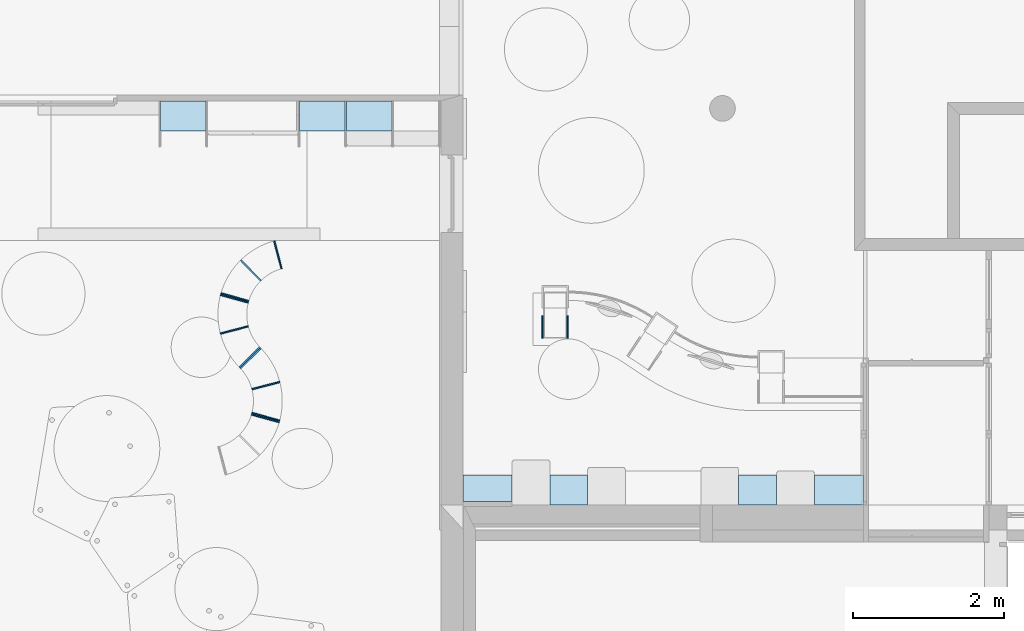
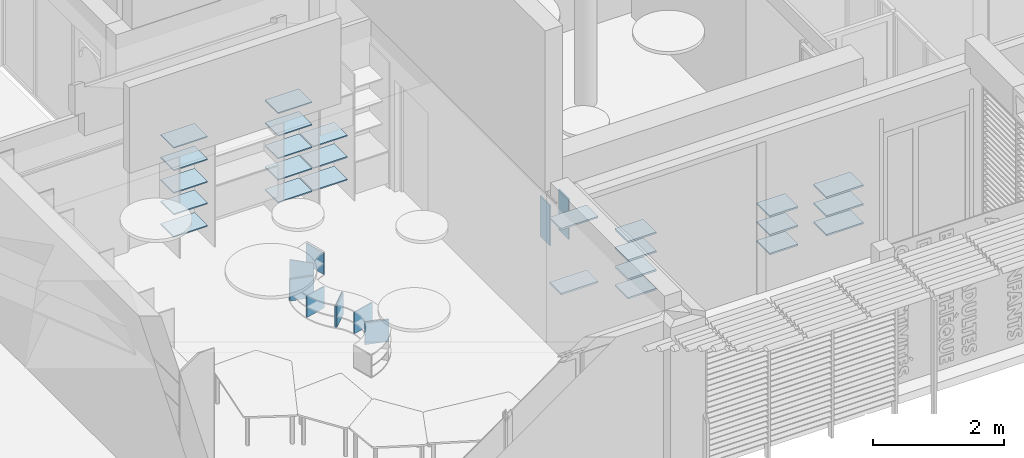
# One storey, part 16 of 64: 37 slabs.
"""IFC2X3 building model written with IfcOpenShell, lengths in metres."""

from ifc_helpers import new_model, entity, si_unit, converted_unit, derived_unit, direction, frame, frame_2d, origin, origin_2d_with_axis, place, context, subcontext, project, spatial, polyline, circle_curve, parameter, trimmed, segment, composite_curve, rectangle, outline, extrude, material, layer, layer_set, layer_usage, type_object, element, save


model = new_model("IFC2X3")

# Units and contexts
model_context = context("Model", 3, precision=1e-05, world=origin(), true_north=direction((6.123031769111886e-17, 1.0)))
body_context = subcontext(model_context, "Body", "Model", "MODEL_VIEW")
ifc_project = project(units=[si_unit("LENGTHUNIT", "METRE"), si_unit("AREAUNIT", "SQUARE_METRE"), si_unit("VOLUMEUNIT", "CUBIC_METRE"), converted_unit("PLANEANGLEUNIT", "DEGREE", entity("IfcRatioMeasure", 0.017453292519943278), si_unit("PLANEANGLEUNIT", "RADIAN"), dimensions=[0, 0, 0, 0, 0, 0, 0]), si_unit("MASSUNIT", "GRAM", prefix="KILO"), derived_unit("MASSDENSITYUNIT", [(si_unit("MASSUNIT", "GRAM", prefix="KILO"), 1), (si_unit("LENGTHUNIT", "METRE"), -3)]), derived_unit("MOMENTOFINERTIAUNIT", [(si_unit("LENGTHUNIT", "METRE"), 4)]), si_unit("TIMEUNIT", "SECOND"), si_unit("FREQUENCYUNIT", "HERTZ"), si_unit("THERMODYNAMICTEMPERATUREUNIT", "DEGREE_CELSIUS"), derived_unit("THERMALTRANSMITTANCEUNIT", [(si_unit("MASSUNIT", "GRAM", prefix="KILO"), 1), (si_unit("THERMODYNAMICTEMPERATUREUNIT", "KELVIN"), -1), (si_unit("TIMEUNIT", "SECOND"), -3)]), derived_unit("THERMALCONDUCTANCEUNIT", [(si_unit("MASSUNIT", "GRAM", prefix="KILO"), 1), (si_unit("LENGTHUNIT", "METRE"), 1), (si_unit("THERMODYNAMICTEMPERATUREUNIT", "KELVIN"), -1), (si_unit("TIMEUNIT", "SECOND"), -3)]), derived_unit("VOLUMETRICFLOWRATEUNIT", [(si_unit("LENGTHUNIT", "METRE"), 3), (si_unit("TIMEUNIT", "SECOND"), -1)]), derived_unit("MASSFLOWRATEUNIT", [(si_unit("MASSUNIT", "GRAM", prefix="KILO"), 1), (si_unit("TIMEUNIT", "SECOND"), -1)]), derived_unit("ROTATIONALFREQUENCYUNIT", [(si_unit("TIMEUNIT", "SECOND"), -1)]), si_unit("ELECTRICCURRENTUNIT", "AMPERE"), si_unit("ELECTRICVOLTAGEUNIT", "VOLT"), si_unit("POWERUNIT", "WATT"), si_unit("FORCEUNIT", "NEWTON", prefix="KILO"), si_unit("ILLUMINANCEUNIT", "LUX"), si_unit("LUMINOUSFLUXUNIT", "LUMEN"), si_unit("LUMINOUSINTENSITYUNIT", "CANDELA"), derived_unit("USERDEFINED", [(si_unit("MASSUNIT", "GRAM", prefix="KILO"), -1), (si_unit("LENGTHUNIT", "METRE"), -2), (si_unit("TIMEUNIT", "SECOND"), 3), (si_unit("LUMINOUSFLUXUNIT", "LUMEN"), 1)]), derived_unit("USERDEFINED", [(si_unit("MASSUNIT", "GRAM", prefix="KILO"), 1), (si_unit("LENGTHUNIT", "METRE"), 3), (si_unit("TIMEUNIT", "SECOND"), -3), (si_unit("ELECTRICCURRENTUNIT", "AMPERE"), -2)]), derived_unit("USERDEFINED", [(si_unit("LENGTHUNIT", "METRE"), 2), (si_unit("TIMEUNIT", "SECOND"), -2)]), derived_unit("SOUNDPOWERUNIT", [(si_unit("MASSUNIT", "GRAM", prefix="KILO"), 1), (si_unit("LENGTHUNIT", "METRE"), 2), (si_unit("TIMEUNIT", "SECOND"), -3)]), derived_unit("SOUNDPRESSUREUNIT", [(si_unit("MASSUNIT", "GRAM", prefix="KILO"), 1), (si_unit("LENGTHUNIT", "METRE"), -1), (si_unit("TIMEUNIT", "SECOND"), -2)]), derived_unit("LINEARVELOCITYUNIT", [(si_unit("LENGTHUNIT", "METRE"), 1), (si_unit("TIMEUNIT", "SECOND"), -1)]), si_unit("PRESSUREUNIT", "PASCAL"), derived_unit("USERDEFINED", [(si_unit("LENGTHUNIT", "METRE"), -2), (si_unit("MASSUNIT", "GRAM", prefix="KILO"), 1), (si_unit("TIMEUNIT", "SECOND"), -2)]), derived_unit("LINEARFORCEUNIT", [(si_unit("MASSUNIT", "GRAM", prefix="KILO"), 1), (si_unit("LENGTHUNIT", "METRE"), 1), (si_unit("TIMEUNIT", "SECOND"), -2), (si_unit("LENGTHUNIT", "METRE"), -1)]), derived_unit("PLANARFORCEUNIT", [(si_unit("MASSUNIT", "GRAM", prefix="KILO"), 1), (si_unit("LENGTHUNIT", "METRE"), 1), (si_unit("TIMEUNIT", "SECOND"), -2), (si_unit("LENGTHUNIT", "METRE"), -2)]), derived_unit("SPECIFICHEATCAPACITYUNIT", [(si_unit("LENGTHUNIT", "METRE"), 2), (si_unit("TIMEUNIT", "SECOND"), -2), (si_unit("THERMODYNAMICTEMPERATUREUNIT", "KELVIN"), -1)]), derived_unit("VAPORPERMEABILITYUNIT", [(si_unit("TIMEUNIT", "SECOND"), 1), (si_unit("LENGTHUNIT", "METRE"), -1)]), derived_unit("DYNAMICVISCOSITYUNIT", [(si_unit("MASSUNIT", "GRAM", prefix="KILO"), 1), (si_unit("LENGTHUNIT", "METRE"), -1), (si_unit("TIMEUNIT", "SECOND"), -1)]), derived_unit("THERMALEXPANSIONCOEFFICIENTUNIT", [(si_unit("THERMODYNAMICTEMPERATUREUNIT", "KELVIN"), -1)])], contexts=[model_context])

# Site, building, storey
site_placement = place(None, origin())
site = spatial("IfcSite", under=ifc_project, at=site_placement, Name="Default", CompositionType="ELEMENT")
building_placement = place(site_placement, origin())
building = spatial("IfcBuilding", under=site, at=building_placement, CompositionType="ELEMENT")
storey_placement = place(building_placement, origin())
storey = spatial("IfcBuildingStorey", under=building, at=storey_placement, Name="REZ-DE-CHAUSSÉE", CompositionType="ELEMENT", Elevation=0.0)

# Slabs
ifc_material = material(Name="Bois - Pin granuleux horizontal")
ifc_layer_1 = layer(ifc_material, 0.02)
ifc_layer_set_1 = layer_set([ifc_layer_1], Name="Sol:Dalle-007:1415")
ifc_layer_usage_1 = layer_usage(ifc_layer_set_1, "AXIS3", "POSITIVE", 0.0)
slab_type_1 = type_object("IfcSlabType", Name="Sol:Dalle-007:1415", PredefinedType="FLOOR", material=ifc_layer_set_1)
slab_1_placement = place(storey_placement, origin())
element("IfcSlab", 1, at=slab_1_placement, inside=storey, type_object=slab_type_1, material=ifc_layer_usage_1, Name="Sol:Dalle-007:1415", ObjectType="Sol:Dalle-007:1415", PredefinedType="FLOOR", context=body_context, shape_type="SweptSolid", body=[
    extrude(rectangle(XDim=0.4, YDim=0.6000000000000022, at=origin_2d_with_axis()), frame((113.680752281, 13.2272094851, 0.7), z_axis=(0.0, 0.0, -1.0), x_axis=(0.0, 1.0, 0.0)), (0.0, 0.0, 1.0), 0.020000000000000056),
])
slab_2_placement = place(storey_placement, origin())
element("IfcSlab", 2, at=slab_2_placement, inside=storey, type_object=slab_type_1, material=ifc_layer_usage_1, Name="Sol:Dalle-007:1415", ObjectType="Sol:Dalle-007:1415", PredefinedType="FLOOR", context=body_context, shape_type="SweptSolid", body=[
    extrude(rectangle(XDim=0.4, YDim=0.6000000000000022, at=origin_2d_with_axis()), frame((113.680752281, 13.2272094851, 0.27999999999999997), z_axis=(0.0, 0.0, -1.0), x_axis=(0.0, 1.0, 0.0)), (0.0, 0.0, 1.0), 0.019999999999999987),
])
slab_3_placement = place(storey_placement, origin())
element("IfcSlab", 3, at=slab_3_placement, inside=storey, type_object=slab_type_1, material=ifc_layer_usage_1, Name="Sol:Dalle-007:1415", ObjectType="Sol:Dalle-007:1415", PredefinedType="FLOOR", context=body_context, shape_type="SweptSolid", body=[
    extrude(rectangle(XDim=0.4, YDim=0.6000000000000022, at=origin_2d_with_axis()), frame((115.52075228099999, 13.2272094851, 1.94), z_axis=(0.0, 0.0, -1.0), x_axis=(0.0, 1.0, 0.0)), (0.0, 0.0, 1.0), 0.020000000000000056),
])
slab_4_placement = place(storey_placement, origin())
element("IfcSlab", 4, at=slab_4_placement, inside=storey, type_object=slab_type_1, material=ifc_layer_usage_1, Name="Sol:Dalle-007:1415", ObjectType="Sol:Dalle-007:1415", PredefinedType="FLOOR", context=body_context, shape_type="SweptSolid", body=[
    extrude(rectangle(XDim=0.4, YDim=0.6000000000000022, at=origin_2d_with_axis()), frame((115.52075228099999, 13.2272094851, 0.27999999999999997), z_axis=(0.0, 0.0, -1.0), x_axis=(0.0, 1.0, 0.0)), (0.0, 0.0, 1.0), 0.019999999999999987),
])
slab_5_placement = place(storey_placement, origin())
element("IfcSlab", 5, at=slab_5_placement, inside=storey, type_object=slab_type_1, material=ifc_layer_usage_1, Name="Sol:Dalle-007:1415", ObjectType="Sol:Dalle-007:1415", PredefinedType="FLOOR", context=body_context, shape_type="SweptSolid", body=[
    extrude(rectangle(XDim=0.4, YDim=0.6000000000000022, at=origin_2d_with_axis()), frame((113.680752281, 13.2272094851, 1.1), z_axis=(0.0, 0.0, -1.0), x_axis=(0.0, 1.0, 0.0)), (0.0, 0.0, 1.0), 0.020000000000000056),
])
slab_6_placement = place(storey_placement, origin())
element("IfcSlab", 6, at=slab_6_placement, inside=storey, type_object=slab_type_1, material=ifc_layer_usage_1, Name="Sol:Dalle-007:1415", ObjectType="Sol:Dalle-007:1415", PredefinedType="FLOOR", context=body_context, shape_type="SweptSolid", body=[
    extrude(rectangle(XDim=0.4, YDim=0.6000000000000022, at=origin_2d_with_axis()), frame((113.680752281, 13.2272094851, 1.5199999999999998), z_axis=(0.0, 0.0, -1.0), x_axis=(0.0, 1.0, 0.0)), (0.0, 0.0, 1.0), 0.020000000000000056),
])
slab_7_placement = place(storey_placement, origin())
element("IfcSlab", 7, at=slab_7_placement, inside=storey, type_object=slab_type_1, material=ifc_layer_usage_1, Name="Sol:Dalle-007:1415", ObjectType="Sol:Dalle-007:1415", PredefinedType="FLOOR", context=body_context, shape_type="SweptSolid", body=[
    extrude(rectangle(XDim=0.4, YDim=0.6000000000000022, at=origin_2d_with_axis()), frame((113.680752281, 13.2272094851, 1.94), z_axis=(0.0, 0.0, -1.0), x_axis=(0.0, 1.0, 0.0)), (0.0, 0.0, 1.0), 0.020000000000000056),
])
slab_8_placement = place(storey_placement, origin())
element("IfcSlab", 8, at=slab_8_placement, inside=storey, type_object=slab_type_1, material=ifc_layer_usage_1, Name="Sol:Dalle-007:1415", ObjectType="Sol:Dalle-007:1415", PredefinedType="FLOOR", context=body_context, shape_type="SweptSolid", body=[
    extrude(rectangle(XDim=0.4, YDim=0.6000000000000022, at=origin_2d_with_axis()), frame((115.52075228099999, 13.2272094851, 0.7), z_axis=(0.0, 0.0, -1.0), x_axis=(0.0, 1.0, 0.0)), (0.0, 0.0, 1.0), 0.020000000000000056),
])
slab_9_placement = place(storey_placement, origin())
element("IfcSlab", 9, at=slab_9_placement, inside=storey, type_object=slab_type_1, material=ifc_layer_usage_1, Name="Sol:Dalle-007:1415", ObjectType="Sol:Dalle-007:1415", PredefinedType="FLOOR", context=body_context, shape_type="SweptSolid", body=[
    extrude(rectangle(XDim=0.4, YDim=0.6000000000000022, at=origin_2d_with_axis()), frame((115.52075228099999, 13.2272094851, 1.1), z_axis=(0.0, 0.0, -1.0), x_axis=(0.0, 1.0, 0.0)), (0.0, 0.0, 1.0), 0.020000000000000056),
])
slab_10_placement = place(storey_placement, origin())
element("IfcSlab", 10, at=slab_10_placement, inside=storey, type_object=slab_type_1, material=ifc_layer_usage_1, Name="Sol:Dalle-007:1415", ObjectType="Sol:Dalle-007:1415", PredefinedType="FLOOR", context=body_context, shape_type="SweptSolid", body=[
    extrude(rectangle(XDim=0.4, YDim=0.6000000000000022, at=origin_2d_with_axis()), frame((115.52075228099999, 13.2272094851, 1.5199999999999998), z_axis=(0.0, 0.0, -1.0), x_axis=(0.0, 1.0, 0.0)), (0.0, 0.0, 1.0), 0.020000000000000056),
])
slab_11_placement = place(storey_placement, origin())
element("IfcSlab", 11, at=slab_11_placement, inside=storey, type_object=slab_type_1, material=ifc_layer_usage_1, Name="Sol:Dalle-007:1415", ObjectType="Sol:Dalle-007:1415", PredefinedType="FLOOR", context=body_context, shape_type="SweptSolid", body=[
    extrude(rectangle(XDim=0.4, YDim=0.6000000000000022, at=origin_2d_with_axis()), frame((116.14075227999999, 13.2272094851, 0.27999999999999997), z_axis=(0.0, 0.0, -1.0), x_axis=(0.0, 1.0, 0.0)), (0.0, 0.0, 1.0), 0.019999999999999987),
])
slab_12_placement = place(storey_placement, origin())
element("IfcSlab", 12, at=slab_12_placement, inside=storey, type_object=slab_type_1, material=ifc_layer_usage_1, Name="Sol:Dalle-007:1415", ObjectType="Sol:Dalle-007:1415", PredefinedType="FLOOR", context=body_context, shape_type="SweptSolid", body=[
    extrude(rectangle(XDim=0.4, YDim=0.6000000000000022, at=origin_2d_with_axis()), frame((116.14075227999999, 13.2272094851, 0.7), z_axis=(0.0, 0.0, -1.0), x_axis=(0.0, 1.0, 0.0)), (0.0, 0.0, 1.0), 0.020000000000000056),
])
slab_13_placement = place(storey_placement, origin())
element("IfcSlab", 13, at=slab_13_placement, inside=storey, type_object=slab_type_1, material=ifc_layer_usage_1, Name="Sol:Dalle-007:1415", ObjectType="Sol:Dalle-007:1415", PredefinedType="FLOOR", context=body_context, shape_type="SweptSolid", body=[
    extrude(rectangle(XDim=0.4, YDim=0.6000000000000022, at=origin_2d_with_axis()), frame((116.14075227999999, 13.2272094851, 1.1), z_axis=(0.0, 0.0, -1.0), x_axis=(0.0, 1.0, 0.0)), (0.0, 0.0, 1.0), 0.020000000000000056),
])
ifc_layer_2 = layer(ifc_material, 0.03)
ifc_layer_set_2 = layer_set([ifc_layer_2], Name="Sol:Dalle-007:1417")
ifc_layer_usage_2 = layer_usage(ifc_layer_set_2, "AXIS3", "POSITIVE", 0.0)
slab_type_2 = type_object("IfcSlabType", Name="Sol:Dalle-007:1417", PredefinedType="FLOOR", material=ifc_layer_set_2)
slab_14_placement = place(storey_placement, origin())
element("IfcSlab", 14, at=slab_14_placement, inside=storey, type_object=slab_type_2, material=ifc_layer_usage_2, Name="Sol:Dalle-007:1417", ObjectType="Sol:Dalle-007:1417", PredefinedType="FLOOR", context=body_context, shape_type="SweptSolid", body=[
    extrude(rectangle(XDim=0.40000000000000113, YDim=0.5000000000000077, at=frame_2d((-5.412337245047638e-16, -8.673617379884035e-15), x_axis=(1.0, 0.0))), frame((118.780752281, 8.277209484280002, 1.3899999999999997), z_axis=(0.0, 0.0, -1.0), x_axis=(0.0, 1.0, 0.0)), (0.0, 0.0, 1.0), 0.029999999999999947),
])
slab_15_placement = place(storey_placement, origin())
element("IfcSlab", 15, at=slab_15_placement, inside=storey, type_object=slab_type_2, material=ifc_layer_usage_2, Name="Sol:Dalle-007:1417", ObjectType="Sol:Dalle-007:1417", PredefinedType="FLOOR", context=body_context, shape_type="SweptSolid", body=[
    extrude(rectangle(XDim=0.40000000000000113, YDim=0.4999999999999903, at=frame_2d((-5.412337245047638e-16, 0.0), x_axis=(1.0, 0.0))), frame((121.280752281, 8.277209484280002, 0.9899999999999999), z_axis=(0.0, 0.0, -1.0), x_axis=(0.0, 1.0, 0.0)), (0.0, 0.0, 1.0), 0.029999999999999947),
])
slab_16_placement = place(storey_placement, origin())
element("IfcSlab", 16, at=slab_16_placement, inside=storey, type_object=slab_type_2, material=ifc_layer_usage_2, Name="Sol:Dalle-007:1417", ObjectType="Sol:Dalle-007:1417", PredefinedType="FLOOR", context=body_context, shape_type="SweptSolid", body=[
    extrude(rectangle(XDim=0.40000000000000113, YDim=0.649999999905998, at=frame_2d((-5.412337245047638e-16, -8.659739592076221e-15), x_axis=(1.0, 0.0))), frame((122.35575228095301, 8.277209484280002, 0.9899999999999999), z_axis=(0.0, 0.0, -1.0), x_axis=(0.0, 1.0, 0.0)), (0.0, 0.0, 1.0), 0.029999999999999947),
])
slab_17_placement = place(storey_placement, origin())
element("IfcSlab", 17, at=slab_17_placement, inside=storey, type_object=slab_type_2, material=ifc_layer_usage_2, Name="Sol:Dalle-007:1417", ObjectType="Sol:Dalle-007:1417", PredefinedType="FLOOR", context=body_context, shape_type="SweptSolid", body=[
    extrude(rectangle(XDim=0.40000000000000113, YDim=0.4999999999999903, at=frame_2d((-5.412337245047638e-16, 0.0), x_axis=(1.0, 0.0))), frame((121.280752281, 8.277209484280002, 0.6399999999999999), z_axis=(0.0, 0.0, -1.0), x_axis=(0.0, 1.0, 0.0)), (0.0, 0.0, 1.0), 0.029999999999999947),
])
slab_18_placement = place(storey_placement, origin())
element("IfcSlab", 18, at=slab_18_placement, inside=storey, type_object=slab_type_2, material=ifc_layer_usage_2, Name="Sol:Dalle-007:1417", ObjectType="Sol:Dalle-007:1417", PredefinedType="FLOOR", context=body_context, shape_type="SweptSolid", body=[
    extrude(rectangle(XDim=0.40000000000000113, YDim=0.649999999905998, at=frame_2d((-5.412337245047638e-16, -8.659739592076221e-15), x_axis=(1.0, 0.0))), frame((122.35575228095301, 8.277209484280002, 0.6399999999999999), z_axis=(0.0, 0.0, -1.0), x_axis=(0.0, 1.0, 0.0)), (0.0, 0.0, 1.0), 0.029999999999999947),
])
slab_19_placement = place(storey_placement, origin())
element("IfcSlab", 19, at=slab_19_placement, inside=storey, type_object=slab_type_2, material=ifc_layer_usage_2, Name="Sol:Dalle-007:1417", ObjectType="Sol:Dalle-007:1417", PredefinedType="FLOOR", context=body_context, shape_type="SweptSolid", body=[
    extrude(rectangle(XDim=0.40000000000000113, YDim=0.4999999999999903, at=frame_2d((-5.412337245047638e-16, 0.0), x_axis=(1.0, 0.0))), frame((121.280752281, 8.277209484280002, 0.29), z_axis=(0.0, 0.0, -1.0), x_axis=(0.0, 1.0, 0.0)), (0.0, 0.0, 1.0), 0.030000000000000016),
])
slab_20_placement = place(storey_placement, origin())
element("IfcSlab", 20, at=slab_20_placement, inside=storey, type_object=slab_type_2, material=ifc_layer_usage_2, Name="Sol:Dalle-007:1417", ObjectType="Sol:Dalle-007:1417", PredefinedType="FLOOR", context=body_context, shape_type="SweptSolid", body=[
    extrude(rectangle(XDim=0.40000000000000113, YDim=0.649999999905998, at=frame_2d((-5.412337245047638e-16, -8.659739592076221e-15), x_axis=(1.0, 0.0))), frame((122.35575228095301, 8.277209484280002, 0.29), z_axis=(0.0, 0.0, -1.0), x_axis=(0.0, 1.0, 0.0)), (0.0, 0.0, 1.0), 0.030000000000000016),
])
slab_21_placement = place(storey_placement, origin())
element("IfcSlab", 21, at=slab_21_placement, inside=storey, type_object=slab_type_2, material=ifc_layer_usage_2, Name="Sol:Dalle-007:1417", ObjectType="Sol:Dalle-007:1417", PredefinedType="FLOOR", context=body_context, shape_type="SweptSolid", body=[
    extrude(rectangle(XDim=0.40000000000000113, YDim=0.5000000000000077, at=frame_2d((-5.412337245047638e-16, -8.673617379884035e-15), x_axis=(1.0, 0.0))), frame((118.780752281, 8.277209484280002, 1.0399999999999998), z_axis=(0.0, 0.0, -1.0), x_axis=(0.0, 1.0, 0.0)), (0.0, 0.0, 1.0), 0.029999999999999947),
])
slab_22_placement = place(storey_placement, origin())
element("IfcSlab", 22, at=slab_22_placement, inside=storey, type_object=slab_type_2, material=ifc_layer_usage_2, Name="Sol:Dalle-007:1417", ObjectType="Sol:Dalle-007:1417", PredefinedType="FLOOR", context=body_context, shape_type="SweptSolid", body=[
    extrude(rectangle(XDim=0.40000000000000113, YDim=0.5000000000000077, at=frame_2d((-5.412337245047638e-16, -8.673617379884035e-15), x_axis=(1.0, 0.0))), frame((118.780752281, 8.277209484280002, 0.69), z_axis=(0.0, 0.0, -1.0), x_axis=(0.0, 1.0, 0.0)), (0.0, 0.0, 1.0), 0.029999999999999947),
])
slab_23_placement = place(storey_placement, origin())
element("IfcSlab", 23, at=slab_23_placement, inside=storey, type_object=slab_type_2, material=ifc_layer_usage_2, Name="Sol:Dalle-007:1417", ObjectType="Sol:Dalle-007:1417", PredefinedType="FLOOR", context=body_context, shape_type="SweptSolid", body=[
    extrude(rectangle(XDim=0.40000000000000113, YDim=0.5000000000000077, at=frame_2d((-5.412337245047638e-16, -8.673617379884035e-15), x_axis=(1.0, 0.0))), frame((118.780752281, 8.277209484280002, 0.3400000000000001), z_axis=(0.0, 0.0, -1.0), x_axis=(0.0, 1.0, 0.0)), (0.0, 0.0, 1.0), 0.030000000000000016),
])
slab_24_placement = place(storey_placement, origin())
element("IfcSlab", 24, at=slab_24_placement, inside=storey, type_object=slab_type_2, material=ifc_layer_usage_2, Name="Sol:Dalle-007:1417", ObjectType="Sol:Dalle-007:1417", PredefinedType="FLOOR", context=body_context, shape_type="SweptSolid", body=[
    extrude(rectangle(XDim=0.34999999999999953, YDim=0.6499999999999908, at=frame_2d((5.412337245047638e-16, 0.0), x_axis=(1.0, 0.0))), frame((117.705752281, 8.302209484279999, 0.7899999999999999), z_axis=(0.0, 0.0, -1.0), x_axis=(0.0, 1.0, 0.0)), (0.0, 0.0, 1.0), 0.029999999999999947),
])
slab_25_placement = place(storey_placement, origin())
element("IfcSlab", 25, at=slab_25_placement, inside=storey, type_object=slab_type_2, material=ifc_layer_usage_2, Name="Sol:Dalle-007:1417", ObjectType="Sol:Dalle-007:1417", PredefinedType="FLOOR", context=body_context, shape_type="SweptSolid", body=[
    extrude(rectangle(XDim=0.34999999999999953, YDim=0.6499999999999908, at=frame_2d((5.412337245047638e-16, 0.0), x_axis=(1.0, 0.0))), frame((117.705752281, 8.302209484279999, 2.0), z_axis=(0.0, 0.0, -1.0), x_axis=(0.0, 1.0, 0.0)), (0.0, 0.0, 1.0), 0.029999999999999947),
])
ifc_layer_3 = layer(ifc_material, 0.4)
ifc_layer_set_3 = layer_set([ifc_layer_3], Name="Sol:Dalle-006:1420")
ifc_layer_usage_3 = layer_usage(ifc_layer_set_3, "AXIS3", "POSITIVE", 0.0)
slab_type_3 = type_object("IfcSlabType", Name="Sol:Dalle-006:1420", PredefinedType="FLOOR", material=ifc_layer_set_3)
slab_26_placement = place(storey_placement, origin())
element("IfcSlab", 26, at=slab_26_placement, inside=storey, type_object=slab_type_3, material=ifc_layer_usage_3, Name="Sol:Dalle-006:1420", ObjectType="Sol:Dalle-006:1420", PredefinedType="FLOOR", context=body_context, shape_type="SweptSolid", body=[
    extrude(outline(composite_curve([segment(polyline([(-0.19043094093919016, -0.00999999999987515), (0.19068968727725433, -0.009999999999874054)]), True, "CONTINUOUS"), segment(trimmed(circle_curve(frame_2d((0.8173706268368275, 0.010000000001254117), x_axis=(-0.9994911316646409, -0.031897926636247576)), 0.6270000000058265), [parameter(358.1720733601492)], [parameter(0.0)], True, "PARAMETER"), False, "CONTINUOUS"), segment(polyline([(0.19037062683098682, 0.009999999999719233), (-0.1906293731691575, 0.010000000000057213)]), True, "CONTINUOUS"), segment(trimmed(circle_curve(frame_2d((0.8173706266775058, 0.009999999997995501), x_axis=(-1.0, 0.0)), 1.0079999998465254), [parameter(0.0)], [parameter(1.136895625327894)], True, "PARAMETER"), True, "CONTINUOUS")], self_intersect=False)), frame((114.57237166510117, 10.02088330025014, 0.52), z_axis=(0.0, 0.0, -1.0), x_axis=(-0.7127800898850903, -0.701387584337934, 0.0)), (0.0, 0.0, 1.0), 0.4),
])
slab_27_placement = place(storey_placement, origin())
element("IfcSlab", 27, at=slab_27_placement, inside=storey, type_object=slab_type_3, material=ifc_layer_usage_3, Name="Sol:Dalle-006:1420", ObjectType="Sol:Dalle-006:1420", PredefinedType="FLOOR", context=body_context, shape_type="SweptSolid", body=[
    extrude(outline(composite_curve([segment(polyline([(-0.1906293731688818, -0.010000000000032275), (0.19037062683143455, -0.010000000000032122)]), True, "CONTINUOUS"), segment(trimmed(circle_curve(frame_2d((0.8173706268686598, -0.010000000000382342), x_axis=(-1.0, 0.0)), 0.6270000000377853), [parameter(358.17207336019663)], [parameter(0.0)], True, "PARAMETER"), False, "CONTINUOUS"), segment(polyline([(0.1906896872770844, 0.010000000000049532), (-0.1904309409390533, 0.009999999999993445)]), True, "CONTINUOUS"), segment(trimmed(circle_curve(frame_2d((0.8173706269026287, -0.010000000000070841), x_axis=(-0.9998031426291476, 0.019841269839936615)), 1.0080000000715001), [parameter(0.0)], [parameter(1.136895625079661)], True, "PARAMETER"), True, "CONTINUOUS")], self_intersect=False)), frame((114.35769222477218, 10.809752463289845, 0.52), z_axis=(0.0, 0.0, -1.0), x_axis=(0.9638095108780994, -0.266591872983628, 0.0)), (0.0, 0.0, 1.0), 0.4),
])
slab_28_placement = place(storey_placement, origin())
element("IfcSlab", 28, at=slab_28_placement, inside=storey, type_object=slab_type_3, material=ifc_layer_usage_3, Name="Sol:Dalle-006:1420", ObjectType="Sol:Dalle-006:1420", PredefinedType="FLOOR", context=body_context, shape_type="SweptSolid", body=[
    extrude(outline(composite_curve([segment(polyline([(-0.19037062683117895, -0.009999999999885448), (0.190629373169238, -0.009999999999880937)]), True, "CONTINUOUS"), segment(trimmed(circle_curve(frame_2d((-0.8173706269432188, -0.010000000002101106), x_axis=(1.0, 0.0)), 1.0080000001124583), [parameter(0.0)], [parameter(1.1368956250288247)], True, "PARAMETER"), True, "CONTINUOUS"), segment(polyline([(0.19043094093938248, 0.010000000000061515), (-0.1906896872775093, 0.009999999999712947)]), True, "CONTINUOUS"), segment(trimmed(circle_curve(frame_2d((-0.8173706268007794, -0.010000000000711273), x_axis=(0.9994911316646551, 0.03189792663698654)), 0.6269999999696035), [parameter(358.1720733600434)], [parameter(0.0)], True, "PARAMETER"), False, "CONTINUOUS")], self_intersect=False)), frame((114.55852834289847, 10.035320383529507, 0.52), z_axis=(0.0, 0.0, -1.0), x_axis=(-0.712780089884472, -0.7013875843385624, 0.0)), (0.0, 0.0, 1.0), 0.4),
])
slab_29_placement = place(storey_placement, origin())
element("IfcSlab", 29, at=slab_29_placement, inside=storey, type_object=slab_type_3, material=ifc_layer_usage_3, Name="Sol:Dalle-006:1420", ObjectType="Sol:Dalle-006:1420", PredefinedType="FLOOR", context=body_context, shape_type="SweptSolid", body=[
    extrude(rectangle(XDim=0.3809999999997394, YDim=0.020000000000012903, at=frame_2d((-1.7055801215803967e-14, -3.299444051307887e-15), x_axis=(1.0, 0.0))), frame((114.7740754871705, 9.65993404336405, 0.52), z_axis=(0.0, 0.0, -1.0), x_axis=(0.967979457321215, 0.2510294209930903, 0.0)), (0.0, 0.0, 1.0), 0.4),
])
slab_30_placement = place(storey_placement, origin())
element("IfcSlab", 30, at=slab_30_placement, inside=storey, type_object=slab_type_3, material=ifc_layer_usage_3, Name="Sol:Dalle-006:1420", ObjectType="Sol:Dalle-006:1420", PredefinedType="FLOOR", context=body_context, shape_type="SweptSolid", body=[
    extrude(outline(composite_curve([segment(polyline([(-0.19037062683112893, -0.010000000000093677), (0.19062937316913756, -0.010000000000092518)]), True, "CONTINUOUS"), segment(trimmed(circle_curve(frame_2d((-0.8173706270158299, -0.010000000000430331), x_axis=(1.0, 0.0)), 1.0080000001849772), [parameter(0.0)], [parameter(1.1368956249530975)], True, "PARAMETER"), True, "CONTINUOUS"), segment(polyline([(0.1904309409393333, 0.009999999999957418), (-0.19068968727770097, 0.010000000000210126)]), True, "CONTINUOUS"), segment(trimmed(circle_curve(frame_2d((-0.8173706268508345, -0.00999999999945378), x_axis=(0.9994911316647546, 0.03189792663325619)), 0.6270000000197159), [parameter(358.1720733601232)], [parameter(0.0)], True, "PARAMETER"), False, "CONTINUOUS")], self_intersect=False)), frame((114.76787594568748, 9.227175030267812, 0.52), z_axis=(0.0, 0.0, -1.0), x_axis=(0.9638095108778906, -0.266591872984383, 0.0)), (0.0, 0.0, 1.0), 0.4),
])
slab_31_placement = place(storey_placement, origin())
element("IfcSlab", 31, at=slab_31_placement, inside=storey, type_object=slab_type_3, material=ifc_layer_usage_3, Name="Sol:Dalle-006:1420", ObjectType="Sol:Dalle-006:1420", PredefinedType="FLOOR", context=body_context, shape_type="SweptSolid", body=[
    extrude(outline(composite_curve([segment(polyline([(-0.1906896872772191, -0.010000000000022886), (0.19043094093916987, -0.010000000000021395)]), True, "CONTINUOUS"), segment(trimmed(circle_curve(frame_2d((-0.8173706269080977, 0.010000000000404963), x_axis=(0.9998031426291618, -0.019841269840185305)), 1.008000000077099), [parameter(0.0)], [parameter(1.1368956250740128)], True, "PARAMETER"), True, "CONTINUOUS"), segment(polyline([(0.1906293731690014, 0.01000000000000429), (-0.19037062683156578, 0.010000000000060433)]), True, "CONTINUOUS"), segment(trimmed(circle_curve(frame_2d((-0.8173706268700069, 0.010000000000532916), x_axis=(1.0, 0.0)), 0.6270000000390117), [parameter(358.1720733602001)], [parameter(0.0)], True, "PARAMETER"), False, "CONTINUOUS")], self_intersect=False)), frame((114.77320778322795, 9.246451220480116, 0.52), z_axis=(0.0, 0.0, -1.0), x_axis=(0.9638095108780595, -0.266591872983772, 0.0)), (0.0, 0.0, 1.0), 0.4),
])
slab_32_placement = place(storey_placement, origin())
element("IfcSlab", 32, at=slab_32_placement, inside=storey, type_object=slab_type_3, material=ifc_layer_usage_3, Name="Sol:Dalle-006:1420", ObjectType="Sol:Dalle-006:1420", PredefinedType="FLOOR", context=body_context, shape_type="SweptSolid", body=[
    extrude(outline(composite_curve([segment(trimmed(circle_curve(frame_2d((-0.003039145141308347, -0.817426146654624), x_axis=(-0.015950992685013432, 0.9998727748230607)), 0.6270000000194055), [parameter(358.17207336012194)], [parameter(0.0)], True, "PARAMETER"), False, "CONTINUOUS"), segment(polyline([(0.006962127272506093, -0.19050591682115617), (0.01303945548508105, 0.19044561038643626)]), True, "CONTINUOUS"), segment(trimmed(circle_curve(frame_2d((-0.0030391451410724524, -0.8174261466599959), x_axis=(0.01595099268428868, 0.9998727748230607)), 1.008000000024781), [parameter(0.0)], [parameter(1.136895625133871)], True, "PARAMETER"), True, "CONTINUOUS"), segment(polyline([(-0.00696116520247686, 0.19056622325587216), (-0.013040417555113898, -0.1905059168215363)]), True, "CONTINUOUS")], self_intersect=False)), frame((114.36302406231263, 10.829028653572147, 0.5199999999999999), z_axis=(0.0, 0.0, -1.0), x_axis=(-0.2819316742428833, -0.9594344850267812, 0.0)), (0.0, 0.0, 1.0), 0.4),
])
slab_33_placement = place(storey_placement, origin())
element("IfcSlab", 33, at=slab_33_placement, inside=storey, type_object=slab_type_3, material=ifc_layer_usage_3, Name="Sol:Dalle-006:1420", ObjectType="Sol:Dalle-006:1420", PredefinedType="FLOOR", context=body_context, shape_type="SweptSolid", body=[
    extrude(outline(composite_curve([segment(polyline([(-0.19062937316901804, -0.010000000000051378), (0.19037062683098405, -0.010000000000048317)]), True, "CONTINUOUS"), segment(trimmed(circle_curve(frame_2d((0.8173706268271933, -0.009999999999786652), x_axis=(-1.0, 0.0)), 0.6269999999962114), [parameter(358.17207336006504)], [parameter(0.0)], True, "PARAMETER"), False, "CONTINUOUS"), segment(polyline([(0.1906896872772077, 0.010000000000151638), (-0.19043094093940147, 0.009999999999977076)]), True, "CONTINUOUS"), segment(trimmed(circle_curve(frame_2d((0.8173706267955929, -0.00999999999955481), x_axis=(-0.9998031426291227, 0.019841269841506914)), 1.0079999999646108), [parameter(0.0)], [parameter(1.13689562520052)], True, "PARAMETER"), True, "CONTINUOUS")], self_intersect=False)), frame((114.9332838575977, 11.390173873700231, 0.5199999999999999), z_axis=(0.0, 0.0, -1.0), x_axis=(0.25102942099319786, -0.9679794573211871, 0.0)), (0.0, 0.0, 1.0), 0.4),
])
slab_34_placement = place(storey_placement, origin())
element("IfcSlab", 34, at=slab_34_placement, inside=storey, type_object=slab_type_3, material=ifc_layer_usage_3, Name="Sol:Dalle-006:1420", ObjectType="Sol:Dalle-006:1420", PredefinedType="FLOOR", context=body_context, shape_type="SweptSolid", body=[
    extrude(rectangle(XDim=0.3810000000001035, YDim=0.020000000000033, at=frame_2d((-2.808864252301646e-14, -2.5859436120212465e-13), x_axis=(1.0, 0.0))), frame((114.57476337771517, 11.184183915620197, 0.5199999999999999), z_axis=(0.0, 0.0, -1.0), x_axis=(0.7013875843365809, -0.7127800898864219, 0.0)), (0.0, 0.0, 1.0), 0.4),
])
slab_35_placement = place(storey_placement, origin())
element("IfcSlab", 35, at=slab_35_placement, inside=storey, type_object=slab_type_3, material=ifc_layer_usage_3, Name="Sol:Dalle-006:1420", ObjectType="Sol:Dalle-006:1420", PredefinedType="FLOOR", context=body_context, shape_type="SweptSolid", body=[
    extrude(rectangle(XDim=0.020000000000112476, YDim=0.3809999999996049, at=frame_2d((-3.1758450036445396e-14, 2.756128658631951e-14), x_axis=(1.0, 0.0))), frame((114.35682452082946, 10.396269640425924, 0.52), z_axis=(0.0, 0.0, -1.0), x_axis=(0.2510294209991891, -0.9679794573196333, 0.0)), (0.0, 0.0, 1.0), 0.4),
])
ifc_layer_4 = layer(ifc_material, 0.7599999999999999)
ifc_layer_set_4 = layer_set([ifc_layer_4], Name="Sol:Dalle-006:1525")
ifc_layer_usage_4 = layer_usage(ifc_layer_set_4, "AXIS3", "POSITIVE", 0.0)
slab_type_4 = type_object("IfcSlabType", Name="Sol:Dalle-006:1525", PredefinedType="FLOOR", material=ifc_layer_set_4)
slab_36_placement = place(storey_placement, origin())
element("IfcSlab", 36, at=slab_36_placement, inside=storey, type_object=slab_type_4, material=ifc_layer_usage_4, Name="Sol:Dalle-006:1525", ObjectType="Sol:Dalle-006:1525", PredefinedType="FLOOR", context=body_context, shape_type="SweptSolid", body=[
    extrude(rectangle(XDim=0.3000000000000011, YDim=0.019999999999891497, at=origin_2d_with_axis()), frame((118.43639356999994, 10.4372094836, 0.7599999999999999), z_axis=(0.0, 0.0, -1.0), x_axis=(0.0, 1.0, 0.0)), (0.0, 0.0, 1.0), 0.7599999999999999),
])
slab_37_placement = place(storey_placement, origin())
element("IfcSlab", 37, at=slab_37_placement, inside=storey, type_object=slab_type_4, material=ifc_layer_usage_4, Name="Sol:Dalle-006:1525", ObjectType="Sol:Dalle-006:1525", PredefinedType="FLOOR", context=body_context, shape_type="SweptSolid", body=[
    extrude(rectangle(XDim=0.3000000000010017, YDim=0.02000000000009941, at=frame_2d((0.0, 1.732555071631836e-14), x_axis=(1.0, 0.0))), frame((118.76639357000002, 10.4372094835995, 0.7599999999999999), z_axis=(0.0, 0.0, -1.0), x_axis=(0.0, 1.0, 0.0)), (0.0, 0.0, 1.0), 0.7599999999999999),
])

save(model, "model.ifc")
